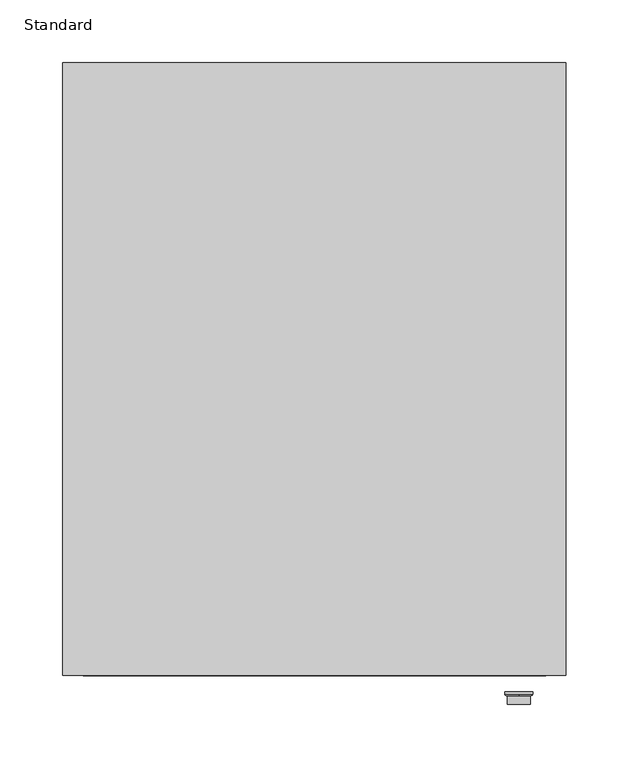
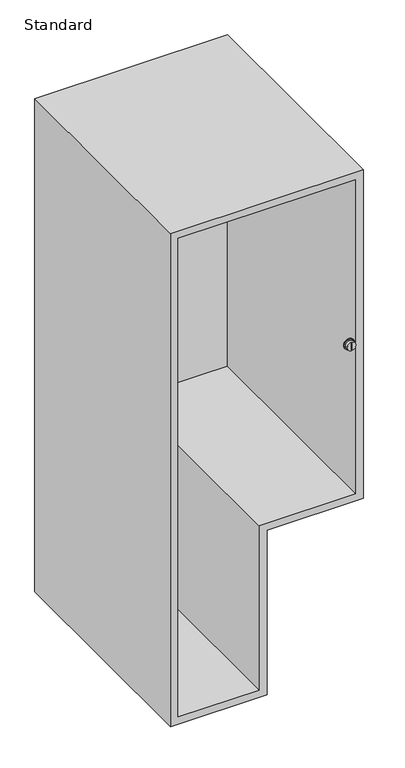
"""IFC4 building model written with IfcOpenShell, lengths in millimetres: furniture geometry, X_Locker-Duracube-Bay : Standard."""

from ifc_helpers import new_model, si_unit, point, frame, frame_2d, origin, place, context, project, spatial, polyline, circle_curve, ellipse_curve, trimmed, segment, composite_curve, outline, extrude, faceted_brep, source, transform, mapped, element, save
from ifc_brep_helpers import plane_surface, revolved_surface, advanced_brep


def standard_d3161605(model_context):
    return source(origin(), model_context, "Body", "SolidModel", [
        extrude(outline(composite_curve([segment(trimmed(circle_curve(frame_2d((360.0, 207.2003264)), 11.0), [point((360.0, 196.2003264))], [point((360.0, 218.2003264))], False, "CARTESIAN"), True, "CONTINUOUS"), segment(trimmed(circle_curve(frame_2d((360.0, 207.2003264)), 11.0), [point((360.0, 218.2003264))], [point((360.0, 196.2003264))], False, "CARTESIAN"), True, "CONTINUOUS")], self_intersect=False)), frame((0.0, -502.0, 0.0), z_axis=(0.0, 1.0, 0.0), x_axis=(0.0, 0.0, 1.0)), (0.0, 0.0, 1.0), 2.0),
        advanced_brep(
        [(207.2003264, -503.0, 351.0), (207.2003264, -503.0, 369.0), (207.2003264, -502.0, 371.0), (207.2003264, -502.0, 349.0), (207.2003264, -502.0, 351.0), (207.2003264, -502.0, 369.0)],
        [
            (0, 1, circle_curve(frame((207.2003264, -503.0, 360.0), z_axis=(0.0, 1.0, 0.0), x_axis=(0.0, 0.0, 1.0)), 9.0)),
            (1, 2, ellipse_curve(frame((207.2003264, -502.0, 369.0), z_axis=(-1.0, 0.0, 0.0), x_axis=(0.0, 0.0, 1.0)), 2.0, 1.0)),
            (2, 3, circle_curve(frame((207.2003264, -502.0, 360.0), z_axis=(0.0, -1.0, 0.0), x_axis=(0.0, 0.0, 1.0)), 11.0)),
            (3, 0, ellipse_curve(frame((207.2003264, -502.0, 351.0), z_axis=(-1.0, 0.0, 0.0), x_axis=(0.0, 0.0, -1.0)), 2.0, 1.0)),
            (1, 0, circle_curve(frame((207.2003264, -503.0, 360.0), z_axis=(0.0, 1.0, 0.0), x_axis=(0.0, 0.0, 1.0)), 9.0)),
            (3, 2, circle_curve(frame((207.2003264, -502.0, 360.0), z_axis=(0.0, -1.0, 0.0), x_axis=(0.0, 0.0, 1.0)), 11.0)),
            (4, 5, circle_curve(frame((207.2003264, -502.0, 360.0), z_axis=(0.0, 1.0, 0.0), x_axis=(0.0, 0.0, 1.0)), 9.0)),
            (5, 1),
            (0, 4),
            (5, 4, circle_curve(frame((207.2003264, -502.0, 360.0), z_axis=(0.0, 1.0, 0.0), x_axis=(0.0, 0.0, 1.0)), 9.0)),
            (2, 5),
            (4, 3),
        ],
        [
            revolved_surface(trimmed(ellipse_curve(frame((207.2003264, -502.0, 369.0), z_axis=(1.0, 0.0, 0.0), x_axis=(0.0, 0.0, 1.0)), 2.0, 1.0), [point((207.2003264, -502.0, 371.0))], [point((207.2003264, -503.0, 369.0))], True, "CARTESIAN"), (207.2003264, -502.0, 360.0), (0.0, -1.0, 0.0)),
            revolved_surface(polyline([(207.2003264, -503.0, 369.0), (207.2003264, -502.0, 369.0)]), (207.2003264, -502.0, 360.0), (0.0, -1.0, 0.0)),
            plane_surface(frame((207.2003264, -502.0, 360.0), z_axis=(0.0, 1.0, 0.0), x_axis=(0.0, 0.0, 1.0))),
        ],
        [
            (0, [[1, 2, 3, 4]]),
            (0, [[5, -4, 6, -2]]),
            (1, [[7, 8, -1, 9]]),
            (1, [[10, -9, -5, -8]]),
            (2, [[-3, 11, -7, 12]]),
            (2, [[-6, -12, -10, -11]]),
        ],
    ),
        extrude(outline(polyline([(208.2003264, -509.0), (206.2003264, -509.0), (206.2003264, -507.0), (208.2003264, -507.0), (208.2003264, -509.0)])), frame((0.0, 0.0, 353.0), z_axis=(0.0, 0.0, 1.0), x_axis=(1.0, 0.0, 0.0)), (0.0, 0.0, 1.0), 14.0),
        extrude(outline(composite_curve([segment(trimmed(circle_curve(frame_2d((360.0, 207.2003264)), 9.0), [point((360.0, 198.2003264))], [point((360.0, 216.2003264))], False, "CARTESIAN"), True, "CONTINUOUS"), segment(trimmed(circle_curve(frame_2d((360.0, 207.2003264)), 9.0), [point((360.0, 216.2003264))], [point((360.0, 198.2003264))], False, "CARTESIAN"), True, "CONTINUOUS")], self_intersect=False), holes=[polyline([(367.0, 208.2003264), (353.0, 208.2003264), (353.0, 206.2003264), (367.0, 206.2003264), (367.0, 208.2003264)])]), frame((0.0, -510.0, 0.0), z_axis=(0.0, 1.0, 0.0), x_axis=(0.0, 0.0, 1.0)), (0.0, 0.0, 1.0), 8.0),
        faceted_brep([(228.7003264, -26.0, 704.0), (-139.2996736, -26.0, 704.0), (-139.2996736, -26.0, -344.0), (28.7003264, -26.0, -344.0), (28.7003264, -26.0, 16.0), (228.7003264, -26.0, 16.0), (-139.2996736, -10.0, 704.0), (228.7003264, -10.0, 704.0), (228.7003264, -10.0, 16.0), (28.7003264, -10.0, 16.0), (28.7003264, -10.0, -344.0), (-139.2996736, -10.0, -344.0), (-155.2996736, -487.0, -360.0), (44.7003264, -487.0, -360.0), (44.7003264, -487.0, 0.0), (244.7003264, -487.0, 0.0), (244.7003264, -487.0, 720.0), (-155.2996736, -487.0, 720.0), (-139.2996736, -487.0, 704.0), (228.7003264, -487.0, 704.0), (228.7003264, -487.0, 16.0), (28.7003264, -487.0, 16.0), (28.7003264, -487.0, -344.0), (-139.2996736, -487.0, -344.0), (-155.2996736, 0.0, -360.0), (44.7003264, 0.0, -360.0), (44.7003264, 0.0, 0.0), (244.7003264, 0.0, 0.0), (244.7003264, 0.0, 720.0), (-155.2996736, 0.0, 720.0), (-139.2996736, 0.0, 704.0), (228.7003264, 0.0, 704.0), (228.7003264, 0.0, 16.0), (28.7003264, 0.0, 16.0), (28.7003264, 0.0, -344.0), (-139.2996736, 0.0, -344.0)], [[[0, 1, 2, 3, 4, 5]], [[6, 7, 8, 9, 10, 11]], [[12, 13, 14, 15, 16, 17], [18, 19, 20, 21, 22, 23]], [[13, 12, 24, 25]], [[14, 13, 25, 26]], [[15, 14, 26, 27]], [[16, 15, 27, 28]], [[17, 16, 28, 29]], [[12, 17, 29, 24]], [[19, 18, 1, 0]], [[30, 31, 7, 6]], [[20, 19, 0, 5]], [[31, 32, 8, 7]], [[21, 20, 5, 4]], [[32, 33, 9, 8]], [[22, 21, 4, 3]], [[33, 34, 10, 9]], [[23, 22, 3, 2]], [[34, 35, 11, 10]], [[18, 23, 2, 1]], [[35, 30, 6, 11]], [[24, 29, 28, 27, 26, 25], [30, 35, 34, 33, 32, 31]]]),
    ])


if __name__ == "__main__":
    model = new_model("IFC4")
    model_context = context("Model", 3, world=origin())
    ifc_project = project(units=[si_unit("LENGTHUNIT", "METRE", prefix="MILLI")], contexts=[model_context])
    site = spatial("IfcSite", under=ifc_project)
    building = spatial("IfcBuilding", under=site)
    placement = place(None, origin())
    standard_shape = standard_d3161605(model_context)
    element("IfcFurniture", 1, ObjectType="X_Locker-Duracube-Bay : Standard", at=placement, inside=building, context=model_context, shape_type="MappedRepresentation", body=[
        mapped(standard_shape, transform((0.0, 0.0, 0.0), x_axis=(1.0, 0.0, 0.0), y_axis=(0.0, 1.0, 0.0), z_axis=(0.0, 0.0, 1.0))),
    ])
    save(model, "model.ifc")
